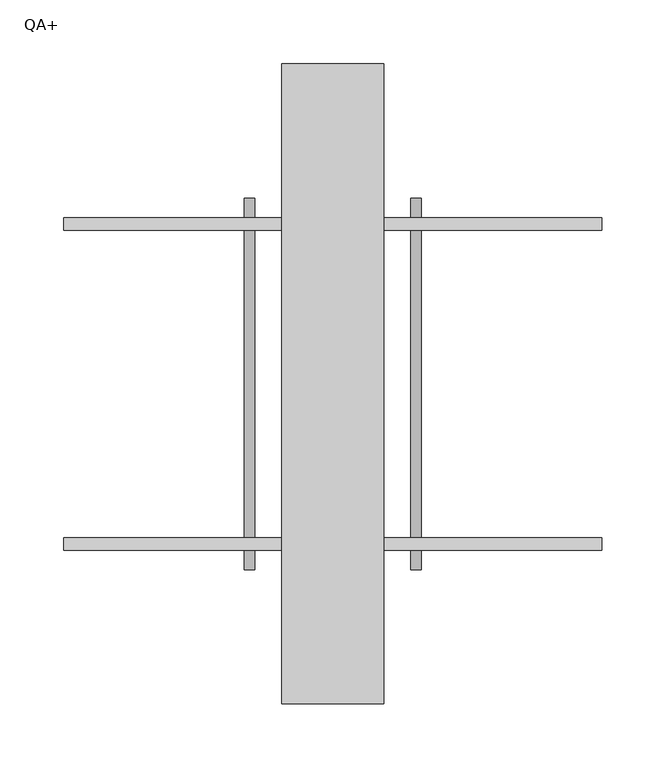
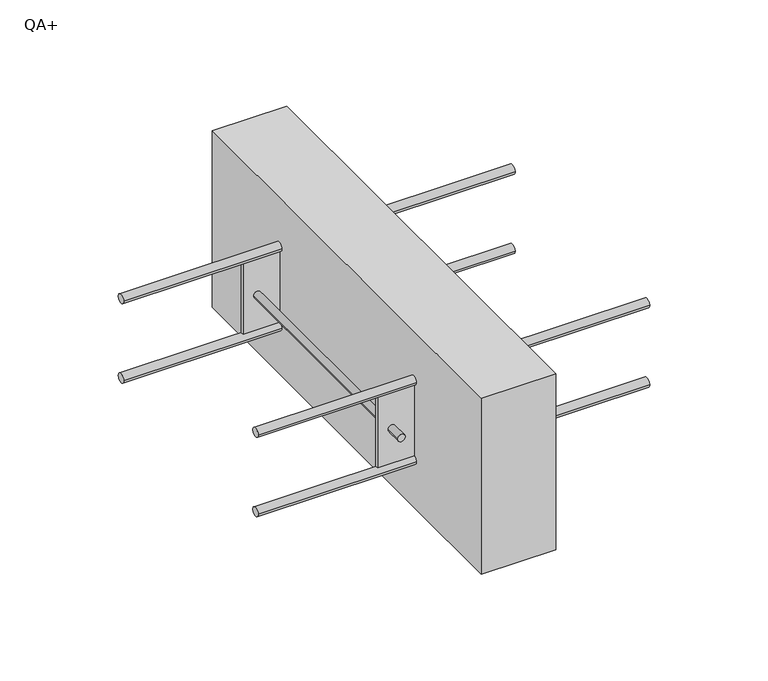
"""IFC4 building model written with IfcOpenShell, lengths in millimetres: proxy geometry, ACINOXplus_Typenreihe_Q : QA+."""

from ifc_helpers import new_model, si_unit, point, frame, frame_2d, origin, place, context, project, spatial, polyline, circle_curve, trimmed, segment, composite_curve, outline, extrude, source, transform, mapped, element, save


def qa_d6388363(model_context):
    return source(origin(), model_context, "Body", "SweptSolid", [
        extrude(outline(polyline([(40.0, 250.0), (40.0, -250.0), (-40.0, -250.0), (-40.0, 250.0), (40.0, 250.0)])), frame((0.0, 0.0, -200.0), z_axis=(0.0, 0.0, 1.0), x_axis=(1.0, 0.0, 0.0)), (0.0, 0.0, 1.0), 200.0),
        extrude(outline(polyline([(80.0, -123.5), (80.0, -126.5), (-80.0, -126.5), (-80.0, -123.5), (80.0, -123.5)])), frame((0.0, 0.0, -140.0), z_axis=(0.0, 0.0, 1.0), x_axis=(1.0, 0.0, 0.0)), (0.0, 0.0, 1.0), 80.0),
        extrude(outline(polyline([(80.0, 126.5), (80.0, 123.5), (-80.0, 123.5), (-80.0, 126.5), (80.0, 126.5)])), frame((0.0, 0.0, -140.0), z_axis=(0.0, 0.0, 1.0), x_axis=(1.0, 0.0, 0.0)), (0.0, 0.0, 1.0), 80.0),
        extrude(outline(composite_curve([segment(trimmed(circle_curve(frame_2d((-100.0, -65.0)), 4.0), [point((-100.0, -69.0))], [point((-100.0, -61.0))], False, "CARTESIAN"), True, "CONTINUOUS"), segment(trimmed(circle_curve(frame_2d((-100.0, -65.0)), 4.0), [point((-100.0, -61.0))], [point((-100.0, -69.0))], False, "CARTESIAN"), True, "CONTINUOUS")], self_intersect=False)), frame((0.0, 126.5, 0.0), z_axis=(0.0, 1.0, 0.0), x_axis=(0.0, 0.0, 1.0)), (0.0, 0.0, 1.0), 18.5),
        extrude(outline(composite_curve([segment(trimmed(circle_curve(frame_2d((-100.0, -65.0)), 4.0), [point((-100.0, -61.0))], [point((-100.0, -69.0))], False, "CARTESIAN"), True, "CONTINUOUS"), segment(trimmed(circle_curve(frame_2d((-100.0, -65.0)), 4.0), [point((-100.0, -69.0))], [point((-100.0, -61.0))], False, "CARTESIAN"), True, "CONTINUOUS")], self_intersect=False)), frame((0.0, -145.0, 0.0), z_axis=(0.0, 1.0, 0.0), x_axis=(0.0, 0.0, 1.0)), (0.0, 0.0, 1.0), 18.5),
        extrude(outline(composite_curve([segment(trimmed(circle_curve(frame_2d((-100.0, -65.0)), 4.0), [point((-100.0, -69.0))], [point((-100.0, -61.0))], False, "CARTESIAN"), True, "CONTINUOUS"), segment(trimmed(circle_curve(frame_2d((-100.0, -65.0)), 4.0), [point((-100.0, -61.0))], [point((-100.0, -69.0))], False, "CARTESIAN"), True, "CONTINUOUS")], self_intersect=False)), frame((0.0, -123.5, 0.0), z_axis=(0.0, 1.0, 0.0), x_axis=(0.0, 0.0, 1.0)), (0.0, 0.0, 1.0), 247.0),
        extrude(outline(composite_curve([segment(trimmed(circle_curve(frame_2d((-100.0, 65.0)), 4.0), [point((-100.0, 61.0))], [point((-100.0, 69.0))], False, "CARTESIAN"), True, "CONTINUOUS"), segment(trimmed(circle_curve(frame_2d((-100.0, 65.0)), 4.0), [point((-100.0, 69.0))], [point((-100.0, 61.0))], False, "CARTESIAN"), True, "CONTINUOUS")], self_intersect=False)), frame((0.0, 126.5, 0.0), z_axis=(0.0, 1.0, 0.0), x_axis=(0.0, 0.0, 1.0)), (0.0, 0.0, 1.0), 18.5),
        extrude(outline(composite_curve([segment(trimmed(circle_curve(frame_2d((-100.0, 65.0)), 4.0), [point((-100.0, 69.0))], [point((-100.0, 61.0))], False, "CARTESIAN"), True, "CONTINUOUS"), segment(trimmed(circle_curve(frame_2d((-100.0, 65.0)), 4.0), [point((-100.0, 61.0))], [point((-100.0, 69.0))], False, "CARTESIAN"), True, "CONTINUOUS")], self_intersect=False)), frame((0.0, -145.0, 0.0), z_axis=(0.0, 1.0, 0.0), x_axis=(0.0, 0.0, 1.0)), (0.0, 0.0, 1.0), 18.5),
        extrude(outline(composite_curve([segment(trimmed(circle_curve(frame_2d((-100.0, 65.0)), 4.0), [point((-100.0, 61.0))], [point((-100.0, 69.0))], False, "CARTESIAN"), True, "CONTINUOUS"), segment(trimmed(circle_curve(frame_2d((-100.0, 65.0)), 4.0), [point((-100.0, 69.0))], [point((-100.0, 61.0))], False, "CARTESIAN"), True, "CONTINUOUS")], self_intersect=False)), frame((0.0, -123.5, 0.0), z_axis=(0.0, 1.0, 0.0), x_axis=(0.0, 0.0, 1.0)), (0.0, 0.0, 1.0), 247.0),
        extrude(outline(composite_curve([segment(trimmed(circle_curve(frame_2d((125.0, -145.0)), 5.0), [point((120.0, -145.0))], [point((130.0, -145.0))], False, "CARTESIAN"), True, "CONTINUOUS"), segment(trimmed(circle_curve(frame_2d((125.0, -145.0)), 5.0), [point((130.0, -145.0))], [point((120.0, -145.0))], False, "CARTESIAN"), True, "CONTINUOUS")], self_intersect=False)), frame((-210.0, 0.0, 0.0), z_axis=(1.0, 0.0, 0.0), x_axis=(0.0, 1.0, 0.0)), (0.0, 0.0, 1.0), 420.0),
        extrude(outline(composite_curve([segment(trimmed(circle_curve(frame_2d((-125.0, -145.0)), 5.0), [point((-130.0, -145.0))], [point((-120.0, -145.0))], False, "CARTESIAN"), True, "CONTINUOUS"), segment(trimmed(circle_curve(frame_2d((-125.0, -145.0)), 5.0), [point((-120.0, -145.0))], [point((-130.0, -145.0))], False, "CARTESIAN"), True, "CONTINUOUS")], self_intersect=False)), frame((-210.0, 0.0, 0.0), z_axis=(1.0, 0.0, 0.0), x_axis=(0.0, 1.0, 0.0)), (0.0, 0.0, 1.0), 420.0),
        extrude(outline(composite_curve([segment(trimmed(circle_curve(frame_2d((125.0, -55.0)), 5.0), [point((120.0, -55.0))], [point((130.0, -55.0))], False, "CARTESIAN"), True, "CONTINUOUS"), segment(trimmed(circle_curve(frame_2d((125.0, -55.0)), 5.0), [point((130.0, -55.0))], [point((120.0, -55.0))], False, "CARTESIAN"), True, "CONTINUOUS")], self_intersect=False)), frame((-210.0, 0.0, 0.0), z_axis=(1.0, 0.0, 0.0), x_axis=(0.0, 1.0, 0.0)), (0.0, 0.0, 1.0), 420.0),
        extrude(outline(composite_curve([segment(trimmed(circle_curve(frame_2d((-125.0, -55.0)), 5.0), [point((-130.0, -55.0))], [point((-120.0, -55.0))], False, "CARTESIAN"), True, "CONTINUOUS"), segment(trimmed(circle_curve(frame_2d((-125.0, -55.0)), 5.0), [point((-120.0, -55.0))], [point((-130.0, -55.0))], False, "CARTESIAN"), True, "CONTINUOUS")], self_intersect=False)), frame((-210.0, 0.0, 0.0), z_axis=(1.0, 0.0, 0.0), x_axis=(0.0, 1.0, 0.0)), (0.0, 0.0, 1.0), 420.0),
    ])


if __name__ == "__main__":
    model = new_model("IFC4")
    model_context = context("Model", 3, world=origin())
    ifc_project = project(units=[si_unit("LENGTHUNIT", "METRE", prefix="MILLI")], contexts=[model_context])
    site = spatial("IfcSite", under=ifc_project)
    building = spatial("IfcBuilding", under=site)
    placement = place(None, origin())
    qa_shape = qa_d6388363(model_context)
    element("IfcBuildingElementProxy", 1, Name="ACINOXplus_Typenreihe_Q : QA+", ObjectType="ACINOXplus_Typenreihe_Q : QA+", at=placement, inside=building, context=model_context, shape_type="MappedRepresentation", body=[
        mapped(qa_shape, transform((0.0, 0.0, 0.0), x_axis=(1.0, 0.0, 0.0), y_axis=(0.0, 1.0, 0.0), z_axis=(0.0, 0.0, 1.0))),
    ])
    save(model, "model.ifc")
